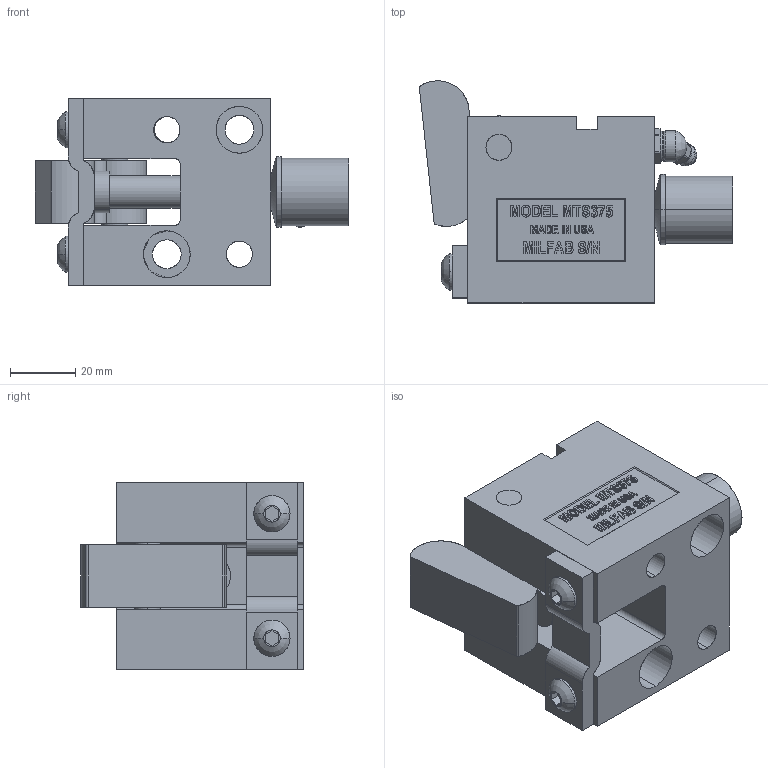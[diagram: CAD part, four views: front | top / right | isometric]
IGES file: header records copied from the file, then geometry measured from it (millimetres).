
Start section: SolidWorks IGES file using analytic representation for surfaces
Global section: file name: Y:\METRIC TOP MOUNT CAM UNITS\MTS375\OPEN\MTS375-O.IGS; native system: SolidWorks 2006 by SolidWorks Corporation; preprocessor: SolidWorks 2006 by SolidWorks Corporation; author: Jim; date: 090116.141840; units: inch
Bounding box: 95.85 x 68.01 x 57.15 mm (x, y, z)
Surface area: 47324.9 mm2 (no closed solid volume)
Topology: 0 solids, 0 shells, 595 faces, 7047 edges, 7043 vertices
Faces by surface type: bspline 468, revolution 127
